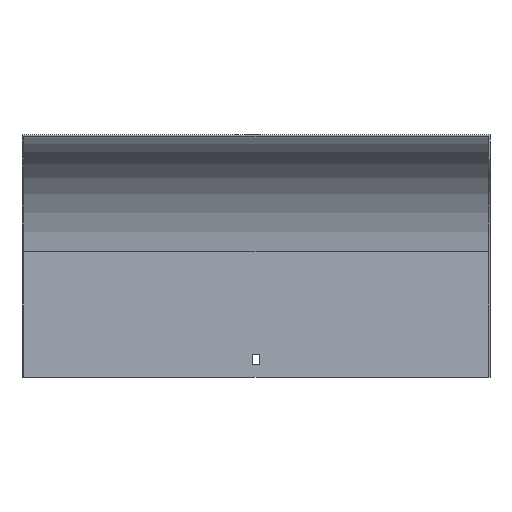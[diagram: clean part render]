
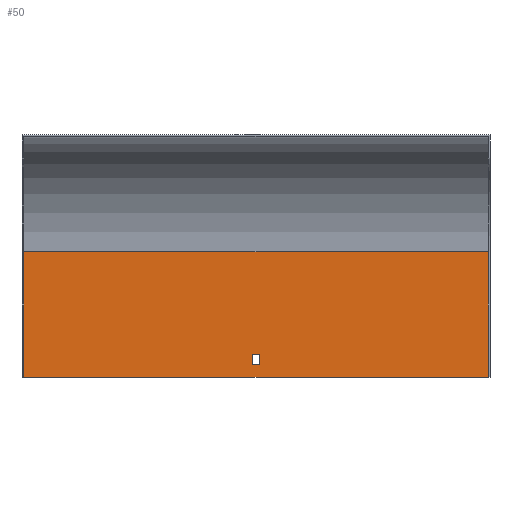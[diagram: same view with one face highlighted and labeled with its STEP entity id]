
A CAD part, top view. The second image highlights one B-rep face of the part: STEP entity #50.
In plain terms, the highlighted planar face has unit normal (0, 0, 1).
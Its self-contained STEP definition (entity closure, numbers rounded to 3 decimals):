
#11 = EDGE_CURVE ( 'NONE', #390, #689, #343, .T. ) ;
#12 = EDGE_CURVE ( 'NONE', #773, #733, #803, .T. ) ;
#13 = PLANE ( 'NONE',  #428 ) ;
#15 = LINE ( 'NONE', #158, #368 ) ;
#18 = DIRECTION ( 'NONE',  ( -1., 0., 0. ) ) ;
#27 = CARTESIAN_POINT ( 'NONE',  ( -3.25, -199.5, -209. ) ) ;
#29 = CARTESIAN_POINT ( 'NONE',  ( -202., -101.5, -209. ) ) ;
#46 = VECTOR ( 'NONE', #18, 1000. ) ;
#50 = ADVANCED_FACE ( 'NONE', ( #419, #282 ), #13, .T. ) ;
#74 = EDGE_CURVE ( 'NONE', #844, #226, #81, .T. ) ;
#78 = VERTEX_POINT ( 'NONE', #27 ) ;
#81 = LINE ( 'NONE', #147, #46 ) ;
#112 = CARTESIAN_POINT ( 'NONE',  ( 202., -210.5, -209. ) ) ;
#133 = CARTESIAN_POINT ( 'NONE',  ( 3.25, -101.5, -209. ) ) ;
#144 = DIRECTION ( 'NONE',  ( 1., 0., 0. ) ) ;
#147 = CARTESIAN_POINT ( 'NONE',  ( 203.5, -101.5, -209. ) ) ;
#158 = CARTESIAN_POINT ( 'NONE',  ( -3.25, -101.5, -209. ) ) ;
#164 = CARTESIAN_POINT ( 'NONE',  ( 202., -101.5, -209. ) ) ;
#174 = ORIENTED_EDGE ( 'NONE', *, *, #408, .T. ) ;
#190 = ORIENTED_EDGE ( 'NONE', *, *, #12, .F. ) ;
#203 = DIRECTION ( 'NONE',  ( -1., 0., 0. ) ) ;
#215 = LINE ( 'NONE', #749, #502 ) ;
#226 = VERTEX_POINT ( 'NONE', #29 ) ;
#241 = LINE ( 'NONE', #399, #327 ) ;
#249 = CARTESIAN_POINT ( 'NONE',  ( 203.5, -199.5, -209. ) ) ;
#258 = DIRECTION ( 'NONE',  ( -1., 0., 0. ) ) ;
#268 = EDGE_LOOP ( 'NONE', ( #667, #174, #637, #567 ) ) ;
#282 = FACE_BOUND ( 'NONE', #268, .T. ) ;
#289 = DIRECTION ( 'NONE',  ( 0., 1., 0. ) ) ;
#293 = EDGE_CURVE ( 'NONE', #733, #226, #241, .T. ) ;
#298 = DIRECTION ( 'NONE',  ( 0., 1., 0. ) ) ;
#319 = DIRECTION ( 'NONE',  ( 0., 1., 0. ) ) ;
#327 = VECTOR ( 'NONE', #319, 1000. ) ;
#337 = EDGE_CURVE ( 'NONE', #689, #78, #450, .T. ) ;
#343 = LINE ( 'NONE', #133, #447 ) ;
#354 = VECTOR ( 'NONE', #258, 1000. ) ;
#368 = VECTOR ( 'NONE', #289, 1000. ) ;
#390 = VERTEX_POINT ( 'NONE', #747 ) ;
#399 = CARTESIAN_POINT ( 'NONE',  ( -202., -101.5, -209. ) ) ;
#408 = EDGE_CURVE ( 'NONE', #78, #653, #15, .T. ) ;
#419 = FACE_OUTER_BOUND ( 'NONE', #789, .T. ) ;
#422 = DIRECTION ( 'NONE',  ( 1., 0., 0. ) ) ;
#428 = AXIS2_PLACEMENT_3D ( 'NONE', #556, #682, #422 ) ;
#447 = VECTOR ( 'NONE', #607, 1000. ) ;
#450 = LINE ( 'NONE', #249, #354 ) ;
#480 = CARTESIAN_POINT ( 'NONE',  ( 202., -101.5, -209. ) ) ;
#491 = ORIENTED_EDGE ( 'NONE', *, *, #74, .T. ) ;
#502 = VECTOR ( 'NONE', #144, 1000. ) ;
#511 = ORIENTED_EDGE ( 'NONE', *, *, #648, .T. ) ;
#531 = VECTOR ( 'NONE', #203, 1000. ) ;
#556 = CARTESIAN_POINT ( 'NONE',  ( 203.5, -101.5, -209. ) ) ;
#567 = ORIENTED_EDGE ( 'NONE', *, *, #11, .T. ) ;
#606 = CARTESIAN_POINT ( 'NONE',  ( 203.5, -210.5, -209. ) ) ;
#607 = DIRECTION ( 'NONE',  ( 0., -1., 0. ) ) ;
#613 = EDGE_CURVE ( 'NONE', #653, #390, #215, .T. ) ;
#635 = VECTOR ( 'NONE', #298, 1000. ) ;
#637 = ORIENTED_EDGE ( 'NONE', *, *, #613, .T. ) ;
#644 = CARTESIAN_POINT ( 'NONE',  ( 3.25, -199.5, -209. ) ) ;
#648 = EDGE_CURVE ( 'NONE', #773, #844, #770, .T. ) ;
#652 = CARTESIAN_POINT ( 'NONE',  ( -202., -210.5, -209. ) ) ;
#653 = VERTEX_POINT ( 'NONE', #758 ) ;
#667 = ORIENTED_EDGE ( 'NONE', *, *, #337, .T. ) ;
#678 = ORIENTED_EDGE ( 'NONE', *, *, #293, .F. ) ;
#682 = DIRECTION ( 'NONE',  ( 0., 0., 1. ) ) ;
#689 = VERTEX_POINT ( 'NONE', #644 ) ;
#733 = VERTEX_POINT ( 'NONE', #652 ) ;
#747 = CARTESIAN_POINT ( 'NONE',  ( 3.25, -190.5, -209. ) ) ;
#749 = CARTESIAN_POINT ( 'NONE',  ( 203.5, -190.5, -209. ) ) ;
#758 = CARTESIAN_POINT ( 'NONE',  ( -3.25, -190.5, -209. ) ) ;
#770 = LINE ( 'NONE', #164, #635 ) ;
#773 = VERTEX_POINT ( 'NONE', #112 ) ;
#789 = EDGE_LOOP ( 'NONE', ( #678, #190, #511, #491 ) ) ;
#803 = LINE ( 'NONE', #606, #531 ) ;
#844 = VERTEX_POINT ( 'NONE', #480 ) ;
